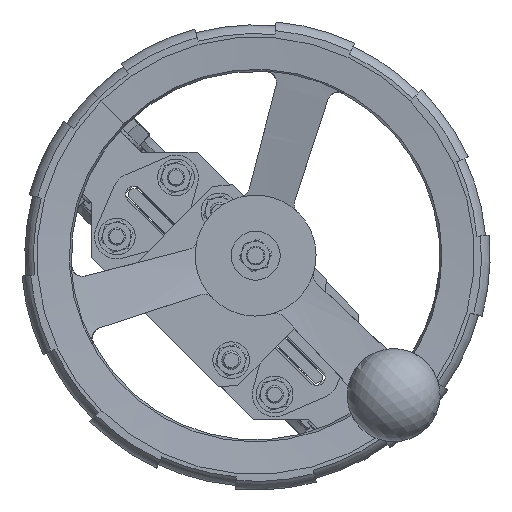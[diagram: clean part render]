
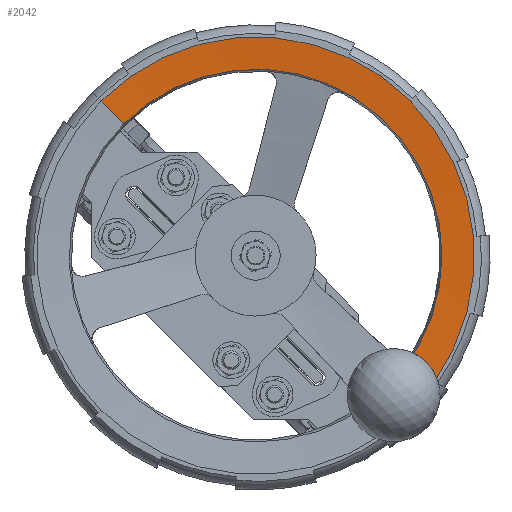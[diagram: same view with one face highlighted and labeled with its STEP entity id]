
A CAD part, front view. The second image highlights one B-rep face of the part: STEP entity #2042.
In plain terms, the highlighted conical face has half-angle 85 degrees and reference radius 117.5 mm.
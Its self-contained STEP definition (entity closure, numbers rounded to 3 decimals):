
#2042=ADVANCED_FACE('',(#6241),#6242,.F.);
#6241=FACE_OUTER_BOUND('',#12329,.T.);
#6242=CONICAL_SURFACE('',#12330,117.5,1.484);
#12329=EDGE_LOOP('',(#28179,#28180,#28181,#28182,#28183,#28184,#28185));
#12330=AXIS2_PLACEMENT_3D('',#28186,#28187,#28188);
#28179=ORIENTED_EDGE('',*,*,#29037,.T.);
#28180=ORIENTED_EDGE('',*,*,#28978,.T.);
#28181=ORIENTED_EDGE('',*,*,#33514,.T.);
#28182=ORIENTED_EDGE('',*,*,#32492,.T.);
#28183=ORIENTED_EDGE('',*,*,#33276,.F.);
#28184=ORIENTED_EDGE('',*,*,#29039,.T.);
#28185=ORIENTED_EDGE('',*,*,#33615,.F.);
#28186=CARTESIAN_POINT('',(16.263,-426.019,16.263));
#28187=DIRECTION('',(0.,-1.,0.));
#28188=DIRECTION('',(-0.707,0.,0.707));
#28978=EDGE_CURVE('',#35353,#35351,#35354,.T.);
#29037=EDGE_CURVE('',#35467,#35353,#35468,.T.);
#29039=EDGE_CURVE('',#35471,#35469,#35472,.T.);
#32492=EDGE_CURVE('',#41448,#41449,#41450,.T.);
#33276=EDGE_CURVE('',#35471,#41449,#42526,.T.);
#33514=EDGE_CURVE('',#35351,#41448,#42824,.T.);
#33615=EDGE_CURVE('',#35467,#35469,#42946,.T.);
#35351=VERTEX_POINT('',#43683);
#35353=VERTEX_POINT('',#43688);
#35354=CIRCLE('',#43689,100.133);
#35467=VERTEX_POINT('',#43933);
#35468=LINE('',#43934,#43935);
#35469=VERTEX_POINT('',#43936);
#35471=VERTEX_POINT('',#43938);
#35472=LINE('',#43939,#43940);
#41448=VERTEX_POINT('',#56145);
#41449=VERTEX_POINT('',#56146);
#41450=B_SPLINE_CURVE_WITH_KNOTS('',3,(#56147,#56148,#56149,#56150,#56151,#56152,#56153),.UNSPECIFIED.,.F.,.F.,(4,3,4),(0.021,0.023,0.033),.UNSPECIFIED.);
#42526=CIRCLE('',#58654,117.278);
#42824=B_SPLINE_CURVE_WITH_KNOTS('',3,(#59186,#59187,#59188,#59189,#59190,#59191),.UNSPECIFIED.,.F.,.F.,(4,2,4),(0.001,0.004,0.007),.UNSPECIFIED.);
#42946=CIRCLE('',#59449,117.5);
#43683=CARTESIAN_POINT('',(94.56,-424.5,-46.157));
#43688=CARTESIAN_POINT('',(-54.541,-424.5,87.068));
#43689=AXIS2_PLACEMENT_3D('',#60711,#60712,#60713);
#43933=CARTESIAN_POINT('',(-66.822,-426.019,99.349));
#43934=CARTESIAN_POINT('',(-66.822,-426.019,99.349));
#43935=VECTOR('',#60824,1.);
#43936=CARTESIAN_POINT('',(99.349,-426.019,-66.822));
#43938=CARTESIAN_POINT('',(99.192,-426.,-66.665));
#43939=CARTESIAN_POINT('',(99.349,-426.019,-66.822));
#43940=VECTOR('',#60828,1.);
#56145=CARTESIAN_POINT('',(99.349,-424.991,-49.144));
#56146=CARTESIAN_POINT('',(107.558,-426.,-57.354));
#56147=CARTESIAN_POINT('',(99.349,-424.991,-49.144));
#56148=CARTESIAN_POINT('',(99.719,-425.036,-49.515));
#56149=CARTESIAN_POINT('',(100.09,-425.082,-49.886));
#56150=CARTESIAN_POINT('',(100.461,-425.127,-50.256));
#56151=CARTESIAN_POINT('',(102.827,-425.418,-52.622));
#56152=CARTESIAN_POINT('',(105.192,-425.709,-54.988));
#56153=CARTESIAN_POINT('',(107.558,-426.,-57.354));
#58654=AXIS2_PLACEMENT_3D('',#67493,#67494,#67495);
#59186=CARTESIAN_POINT('',(94.56,-424.5,-46.157));
#59187=CARTESIAN_POINT('',(95.456,-424.578,-46.464));
#59188=CARTESIAN_POINT('',(96.312,-424.659,-46.869));
#59189=CARTESIAN_POINT('',(97.937,-424.825,-47.883));
#59190=CARTESIAN_POINT('',(98.679,-424.908,-48.475));
#59191=CARTESIAN_POINT('',(99.349,-424.991,-49.144));
#59449=AXIS2_PLACEMENT_3D('',#68087,#68088,#68089);
#60711=CARTESIAN_POINT('',(16.263,-424.5,16.263));
#60712=DIRECTION('',(0.,1.,0.));
#60713=DIRECTION('',(0.707,0.,-0.707));
#60824=DIRECTION('',(0.704,0.087,-0.704));
#60828=DIRECTION('',(0.704,-0.087,-0.704));
#67493=CARTESIAN_POINT('',(16.263,-426.,16.263));
#67494=DIRECTION('',(0.,-1.,0.));
#67495=DIRECTION('',(-0.707,0.,-0.707));
#68087=CARTESIAN_POINT('',(16.263,-426.019,16.263));
#68088=DIRECTION('',(0.,1.,0.));
#68089=DIRECTION('',(0.707,0.,-0.707));
